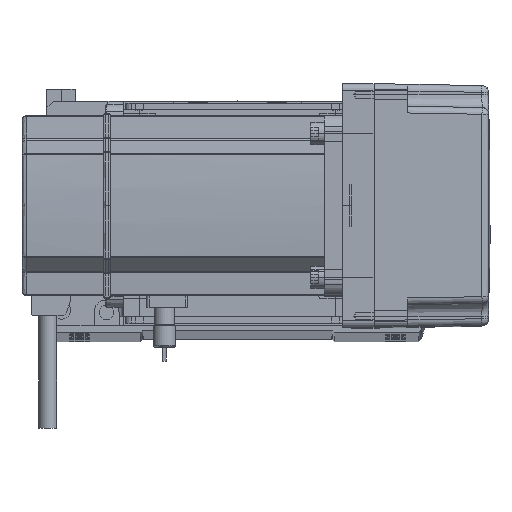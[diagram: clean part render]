
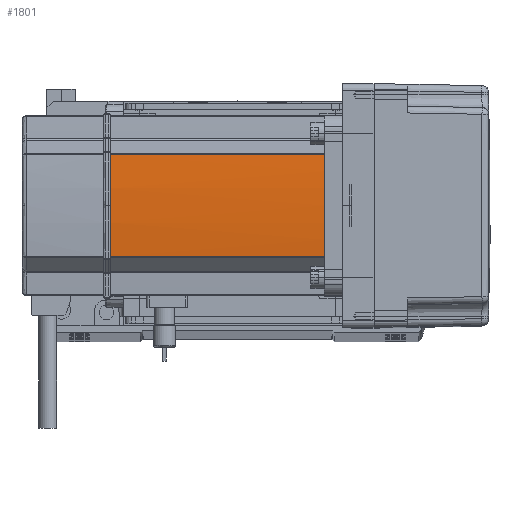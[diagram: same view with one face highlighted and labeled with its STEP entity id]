
A CAD part, top view. The second image highlights one B-rep face of the part: STEP entity #1801.
In plain terms, the highlighted cylindrical face has radius 270 mm (diameter 540 mm), a partial arc.
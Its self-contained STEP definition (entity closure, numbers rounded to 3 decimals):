
#1801 = ADVANCED_FACE ( 'NONE', ( #48149 ), #15537, .T. ) ;
#3168 = VERTEX_POINT ( 'NONE', #26013 ) ;
#3730 = EDGE_CURVE ( 'NONE', #7144, #35694, #49052, .T. ) ;
#4645 = CARTESIAN_POINT ( 'NONE',  ( 230., 0., 0. ) ) ;
#5947 = EDGE_CURVE ( 'NONE', #43240, #7144, #48813, .T. ) ;
#6866 = EDGE_CURVE ( 'NONE', #52537, #43240, #60796, .T. ) ;
#7144 = VERTEX_POINT ( 'NONE', #45825 ) ;
#8929 = ORIENTED_EDGE ( 'NONE', *, *, #57324, .F. ) ;
#9917 = AXIS2_PLACEMENT_3D ( 'NONE', #4645, #14392, #43654 ) ;
#14392 = DIRECTION ( 'NONE',  ( 0., 0., 1. ) ) ;
#15059 = CARTESIAN_POINT ( 'NONE',  ( -39.042, 22.724, 0. ) ) ;
#15537 = CYLINDRICAL_SURFACE ( 'NONE', #9917, 270. ) ;
#16629 = CARTESIAN_POINT ( 'NONE',  ( 230., 0., 134. ) ) ;
#16890 = ORIENTED_EDGE ( 'NONE', *, *, #3730, .T. ) ;
#19953 = CARTESIAN_POINT ( 'NONE',  ( -39.042, -22.724, 0. ) ) ;
#21750 = DIRECTION ( 'NONE',  ( 1., 0., 0. ) ) ;
#26013 = CARTESIAN_POINT ( 'NONE',  ( -39.042, 22.724, 39. ) ) ;
#31863 = DIRECTION ( 'NONE',  ( 0., 0., -1. ) ) ;
#35694 = VERTEX_POINT ( 'NONE', #49142 ) ;
#36149 = CARTESIAN_POINT ( 'NONE',  ( -39.042, -22.724, 39. ) ) ;
#36189 = DIRECTION ( 'NONE',  ( 1., 0., 0. ) ) ;
#39267 = DIRECTION ( 'NONE',  ( 0., 0., -1. ) ) ;
#40488 = AXIS2_PLACEMENT_3D ( 'NONE', #16629, #56027, #36189 ) ;
#41119 = DIRECTION ( 'NONE',  ( 0., 0., -1. ) ) ;
#41539 = CARTESIAN_POINT ( 'NONE',  ( 230., 0., 134. ) ) ;
#43240 = VERTEX_POINT ( 'NONE', #62618 ) ;
#43654 = DIRECTION ( 'NONE',  ( 1., 0., 0. ) ) ;
#44057 = VECTOR ( 'NONE', #39267, 1000. ) ;
#45825 = CARTESIAN_POINT ( 'NONE',  ( -40., 0., 134. ) ) ;
#46358 = LINE ( 'NONE', #15059, #44057 ) ;
#48149 = FACE_OUTER_BOUND ( 'NONE', #59883, .T. ) ;
#48256 = CIRCLE ( 'NONE', #54885, 270. ) ;
#48813 = CIRCLE ( 'NONE', #55109, 270. ) ;
#49052 = CIRCLE ( 'NONE', #40488, 270. ) ;
#49142 = CARTESIAN_POINT ( 'NONE',  ( -39.042, 22.724, 134. ) ) ;
#49617 = ORIENTED_EDGE ( 'NONE', *, *, #5947, .T. ) ;
#50288 = DIRECTION ( 'NONE',  ( 1., 0., 0. ) ) ;
#51540 = EDGE_CURVE ( 'NONE', #35694, #3168, #46358, .T. ) ;
#52109 = ORIENTED_EDGE ( 'NONE', *, *, #51540, .T. ) ;
#52537 = VERTEX_POINT ( 'NONE', #36149 ) ;
#54885 = AXIS2_PLACEMENT_3D ( 'NONE', #55158, #31863, #50288 ) ;
#55109 = AXIS2_PLACEMENT_3D ( 'NONE', #41539, #41119, #21750 ) ;
#55158 = CARTESIAN_POINT ( 'NONE',  ( 230., 0., 39. ) ) ;
#55292 = ORIENTED_EDGE ( 'NONE', *, *, #6866, .T. ) ;
#56027 = DIRECTION ( 'NONE',  ( 0., 0., -1. ) ) ;
#57324 = EDGE_CURVE ( 'NONE', #52537, #3168, #48256, .T. ) ;
#58523 = DIRECTION ( 'NONE',  ( 0., 0., 1. ) ) ;
#59883 = EDGE_LOOP ( 'NONE', ( #49617, #16890, #52109, #8929, #55292 ) ) ;
#60796 = LINE ( 'NONE', #19953, #61514 ) ;
#61514 = VECTOR ( 'NONE', #58523, 1000. ) ;
#62618 = CARTESIAN_POINT ( 'NONE',  ( -39.042, -22.724, 134. ) ) ;
